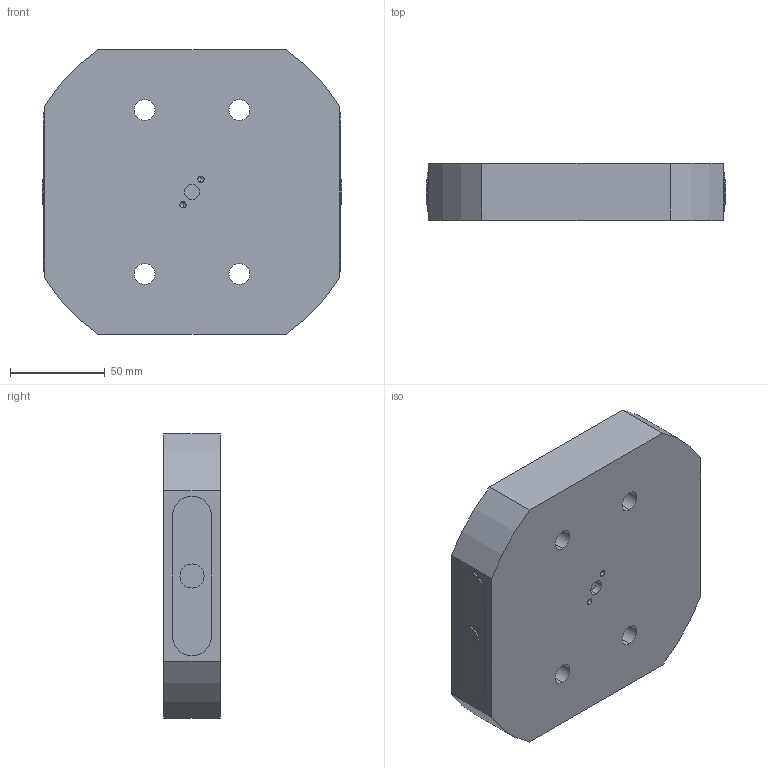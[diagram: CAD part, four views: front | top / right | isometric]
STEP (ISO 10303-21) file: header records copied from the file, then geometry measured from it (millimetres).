
FILE_DESCRIPTION (( 'STEP AP214' ), '1' );
FILE_NAME ('D_RL96A-60100.STEP', '2020-02-03T18:53:48', ( '' ), ( '' ), 'SwSTEP 2.0', 'SolidWorks 2018', '' );
FILE_SCHEMA (( 'AUTOMOTIVE_DESIGN' ));
Length unit declared in the file: millimetre
Products named in the file (1): D_RL96A-60100
Bounding box: 158 x 30 x 150 mm (x, y, z)
Volume: 503982.4 mm3; surface area: 102169.4 mm2
Topology: 2 solids, 2 shells, 183 faces, 444 edges, 290 vertices
Faces by surface type: cylinder 114, plane 61, cone 8
Entity records: 7956 total; most frequent: CARTESIAN_POINT 1430, DIRECTION 1004, ORIENTED_EDGE 872, EDGE_CURVE 436, AXIS2_PLACEMENT_3D 414, VERTEX_POINT 290, EDGE_LOOP 234, CIRCLE 230
